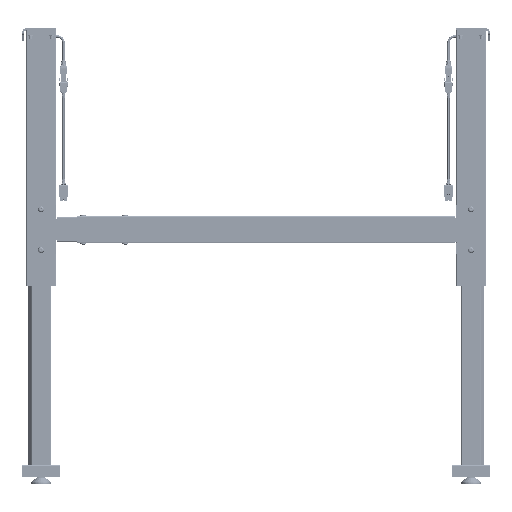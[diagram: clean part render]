
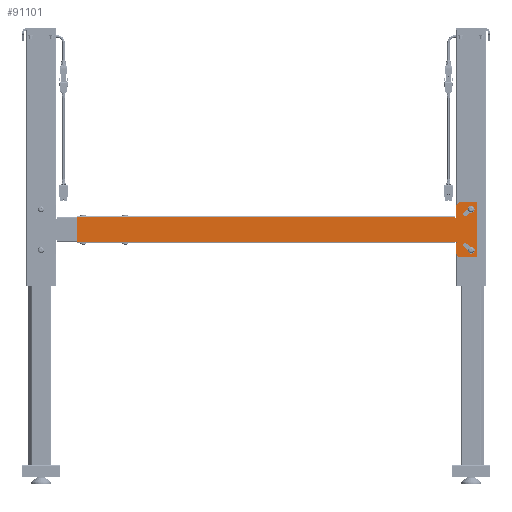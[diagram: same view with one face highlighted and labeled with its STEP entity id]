
A CAD part, left-side view. The second image highlights one B-rep face of the part: STEP entity #91101.
In plain terms, the highlighted planar face has unit normal (-1, 0, 0) as drawn and (0, 0, -1) by its records, which use the part's own axes.
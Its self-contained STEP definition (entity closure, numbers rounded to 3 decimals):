
#5524=CIRCLE('',#97810,4.75);
#5526=CIRCLE('',#97815,4.75);
#5534=CIRCLE('',#97832,4.75);
#5535=CIRCLE('',#97833,4.75);
#5536=CIRCLE('',#97834,10.);
#5537=CIRCLE('',#97835,10.);
#5538=CIRCLE('',#97836,1.75);
#5539=CIRCLE('',#97837,1.75);
#24698=ORIENTED_EDGE('',*,*,#36213,.F.);
#24699=ORIENTED_EDGE('',*,*,#36177,.F.);
#24700=ORIENTED_EDGE('',*,*,#36181,.F.);
#24701=ORIENTED_EDGE('',*,*,#36184,.F.);
#24702=ORIENTED_EDGE('',*,*,#36214,.F.);
#24703=ORIENTED_EDGE('',*,*,#36167,.F.);
#24704=ORIENTED_EDGE('',*,*,#36171,.F.);
#24705=ORIENTED_EDGE('',*,*,#36174,.F.);
#24706=ORIENTED_EDGE('',*,*,#36196,.F.);
#24707=ORIENTED_EDGE('',*,*,#36215,.T.);
#24708=ORIENTED_EDGE('',*,*,#36191,.F.);
#24709=ORIENTED_EDGE('',*,*,#36189,.F.);
#24710=ORIENTED_EDGE('',*,*,#36204,.F.);
#24711=ORIENTED_EDGE('',*,*,#36216,.T.);
#24712=ORIENTED_EDGE('',*,*,#36198,.F.);
#24713=ORIENTED_EDGE('',*,*,#36217,.F.);
#24714=ORIENTED_EDGE('',*,*,#36123,.T.);
#24715=ORIENTED_EDGE('',*,*,#36206,.F.);
#24716=ORIENTED_EDGE('',*,*,#36165,.T.);
#24717=ORIENTED_EDGE('',*,*,#36218,.F.);
#36123=EDGE_CURVE('',#43466,#43465,#50337,.T.);
#36165=EDGE_CURVE('',#43495,#43496,#50358,.T.);
#36167=EDGE_CURVE('',#43497,#43498,#50359,.T.);
#36171=EDGE_CURVE('',#43501,#43497,#5524,.T.);
#36174=EDGE_CURVE('',#43503,#43501,#50364,.T.);
#36177=EDGE_CURVE('',#43505,#43506,#50367,.T.);
#36181=EDGE_CURVE('',#43509,#43505,#5526,.T.);
#36184=EDGE_CURVE('',#43511,#43509,#50372,.T.);
#36189=EDGE_CURVE('',#43515,#43516,#50377,.T.);
#36191=EDGE_CURVE('',#43516,#43517,#50379,.T.);
#36196=EDGE_CURVE('',#43521,#43522,#50384,.T.);
#36198=EDGE_CURVE('',#43523,#43524,#50386,.T.);
#36204=EDGE_CURVE('',#43528,#43515,#50392,.T.);
#36206=EDGE_CURVE('',#43495,#43465,#50394,.T.);
#36213=EDGE_CURVE('',#43506,#43511,#5534,.T.);
#36214=EDGE_CURVE('',#43498,#43503,#5535,.T.);
#36215=EDGE_CURVE('',#43521,#43517,#5536,.T.);
#36216=EDGE_CURVE('',#43528,#43524,#5537,.T.);
#36217=EDGE_CURVE('',#43466,#43523,#5538,.T.);
#36218=EDGE_CURVE('',#43522,#43496,#5539,.T.);
#43465=VERTEX_POINT('',#142368);
#43466=VERTEX_POINT('',#142370);
#43495=VERTEX_POINT('',#142457);
#43496=VERTEX_POINT('',#142459);
#43497=VERTEX_POINT('',#142468);
#43498=VERTEX_POINT('',#142469);
#43501=VERTEX_POINT('',#142477);
#43503=VERTEX_POINT('',#142483);
#43505=VERTEX_POINT('',#142489);
#43506=VERTEX_POINT('',#142490);
#43509=VERTEX_POINT('',#142498);
#43511=VERTEX_POINT('',#142504);
#43515=VERTEX_POINT('',#142513);
#43516=VERTEX_POINT('',#142515);
#43517=VERTEX_POINT('',#142519);
#43521=VERTEX_POINT('',#142528);
#43522=VERTEX_POINT('',#142530);
#43523=VERTEX_POINT('',#142534);
#43524=VERTEX_POINT('',#142535);
#43528=VERTEX_POINT('',#142545);
#50337=LINE('',#142369,#57021);
#50358=LINE('',#142460,#57042);
#50359=LINE('',#142467,#57043);
#50364=LINE('',#142482,#57048);
#50367=LINE('',#142488,#57051);
#50372=LINE('',#142503,#57056);
#50377=LINE('',#142514,#57061);
#50379=LINE('',#142518,#57063);
#50384=LINE('',#142529,#57068);
#50386=LINE('',#142533,#57070);
#50392=LINE('',#142546,#57076);
#50394=LINE('',#142549,#57078);
#57021=VECTOR('',#116876,1000.);
#57042=VECTOR('',#116959,1000.);
#57043=VECTOR('',#116964,1000.);
#57048=VECTOR('',#116977,1000.);
#57051=VECTOR('',#116982,1000.);
#57056=VECTOR('',#116995,1000.);
#57061=VECTOR('',#117002,1000.);
#57063=VECTOR('',#117006,1000.);
#57068=VECTOR('',#117013,1000.);
#57070=VECTOR('',#117017,1000.);
#57076=VECTOR('',#117025,1000.);
#57078=VECTOR('',#117029,1000.);
#61139=EDGE_LOOP('',(#24698,#24699,#24700,#24701));
#61140=EDGE_LOOP('',(#24702,#24703,#24704,#24705));
#61141=EDGE_LOOP('',(#24706,#24707,#24708,#24709,#24710,#24711,#24712,#24713,
#24714,#24715,#24716,#24717));
#65342=FACE_BOUND('',#61139,.T.);
#65343=FACE_BOUND('',#61140,.T.);
#65344=FACE_BOUND('',#61141,.T.);
#67903=PLANE('',#97831);
#91101=ADVANCED_FACE('',(#65342,#65343,#65344),#67903,.T.);
#97810=AXIS2_PLACEMENT_3D('',#142476,#116970,#116971);
#97815=AXIS2_PLACEMENT_3D('',#142497,#116988,#116989);
#97831=AXIS2_PLACEMENT_3D('',#142557,#117044,#117045);
#97832=AXIS2_PLACEMENT_3D('',#142558,#117046,#117047);
#97833=AXIS2_PLACEMENT_3D('',#142559,#117048,#117049);
#97834=AXIS2_PLACEMENT_3D('',#142560,#117050,#117051);
#97835=AXIS2_PLACEMENT_3D('',#142561,#117052,#117053);
#97836=AXIS2_PLACEMENT_3D('',#142562,#117054,#117055);
#97837=AXIS2_PLACEMENT_3D('',#142563,#117056,#117057);
#116876=DIRECTION('',(1.,0.,0.));
#116959=DIRECTION('',(-1.,0.,0.));
#116964=DIRECTION('',(0.766,0.643,0.));
#116970=DIRECTION('',(0.,0.,-1.));
#116971=DIRECTION('',(-1.,0.,0.));
#116977=DIRECTION('',(-0.766,-0.643,0.));
#116982=DIRECTION('',(0.766,-0.643,0.));
#116988=DIRECTION('',(0.,0.,-1.));
#116989=DIRECTION('',(-1.,0.,0.));
#116995=DIRECTION('',(-0.766,0.643,0.));
#117002=DIRECTION('',(0.,-1.,0.));
#117006=DIRECTION('',(1.,0.,0.));
#117013=DIRECTION('',(0.,1.,0.));
#117017=DIRECTION('',(0.,1.,0.));
#117025=DIRECTION('',(-1.,0.,0.));
#117029=DIRECTION('',(0.,1.,0.));
#117044=DIRECTION('',(0.,0.,-1.));
#117045=DIRECTION('',(-1.,0.,0.));
#117046=DIRECTION('',(0.,0.,-1.));
#117047=DIRECTION('',(-1.,0.,0.));
#117048=DIRECTION('',(0.,0.,-1.));
#117049=DIRECTION('',(-1.,0.,0.));
#117050=DIRECTION('',(0.,0.,-1.));
#117051=DIRECTION('',(-1.,0.,0.));
#117052=DIRECTION('',(0.,0.,-1.));
#117053=DIRECTION('',(-1.,0.,0.));
#117054=DIRECTION('',(0.,0.,-1.));
#117055=DIRECTION('',(-1.,0.,0.));
#117056=DIRECTION('',(0.,0.,-1.));
#117057=DIRECTION('',(1.,0.,0.));
#142368=CARTESIAN_POINT('',(924.,29.9,-2.5));
#142369=CARTESIAN_POINT('',(26.,29.9,-2.5));
#142370=CARTESIAN_POINT('',(26.747,29.9,-2.5));
#142457=CARTESIAN_POINT('',(924.,-29.9,-2.5));
#142459=CARTESIAN_POINT('',(26.754,-29.9,-2.5));
#142460=CARTESIAN_POINT('',(924.,-29.9,-2.5));
#142467=CARTESIAN_POINT('',(16.196,-19.301,-2.5));
#142468=CARTESIAN_POINT('',(-16.053,-46.361,-2.5));
#142469=CARTESIAN_POINT('',(-0.349,-33.184,-2.5));
#142476=CARTESIAN_POINT('',(-13.,-50.,-2.5));
#142477=CARTESIAN_POINT('',(-9.947,-53.639,-2.5));
#142482=CARTESIAN_POINT('',(22.302,-26.579,-2.5));
#142483=CARTESIAN_POINT('',(5.757,-40.462,-2.5));
#142488=CARTESIAN_POINT('',(22.302,26.579,-2.5));
#142489=CARTESIAN_POINT('',(-9.947,53.639,-2.5));
#142490=CARTESIAN_POINT('',(5.757,40.462,-2.5));
#142497=CARTESIAN_POINT('',(-13.,50.,-2.5));
#142498=CARTESIAN_POINT('',(-16.053,46.361,-2.5));
#142503=CARTESIAN_POINT('',(16.196,19.301,-2.5));
#142504=CARTESIAN_POINT('',(-0.349,33.184,-2.5));
#142513=CARTESIAN_POINT('',(-24.,65.,-2.5));
#142514=CARTESIAN_POINT('',(-24.,65.,-2.5));
#142515=CARTESIAN_POINT('',(-24.,-65.,-2.5));
#142518=CARTESIAN_POINT('',(-24.,-65.,-2.5));
#142519=CARTESIAN_POINT('',(14.,-65.,-2.5));
#142528=CARTESIAN_POINT('',(24.,-55.,-2.5));
#142529=CARTESIAN_POINT('',(24.,65.,-2.5));
#142530=CARTESIAN_POINT('',(24.,-31.436,-2.5));
#142533=CARTESIAN_POINT('',(24.,65.,-2.5));
#142534=CARTESIAN_POINT('',(24.,31.436,-2.5));
#142535=CARTESIAN_POINT('',(24.,55.,-2.5));
#142545=CARTESIAN_POINT('',(14.,65.,-2.5));
#142546=CARTESIAN_POINT('',(-24.,65.,-2.5));
#142549=CARTESIAN_POINT('',(924.,30.,-2.5));
#142557=CARTESIAN_POINT('',(0.,0.,-2.5));
#142558=CARTESIAN_POINT('',(2.704,36.823,-2.5));
#142559=CARTESIAN_POINT('',(2.704,-36.823,-2.5));
#142560=CARTESIAN_POINT('',(14.,-55.,-2.5));
#142561=CARTESIAN_POINT('',(14.,55.,-2.5));
#142562=CARTESIAN_POINT('',(25.,30.,-2.5));
#142563=CARTESIAN_POINT('',(25.,-30.,-2.5));
